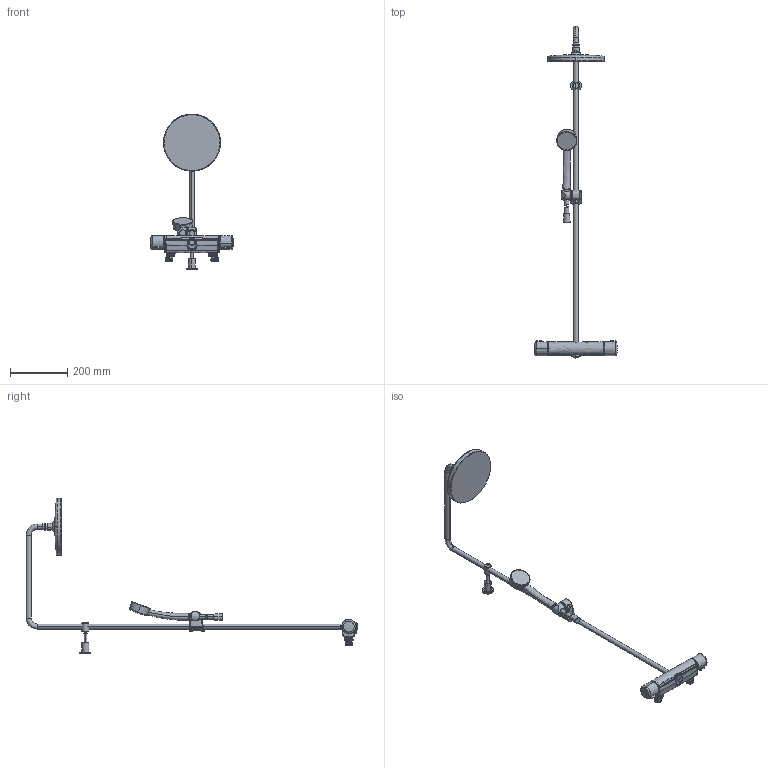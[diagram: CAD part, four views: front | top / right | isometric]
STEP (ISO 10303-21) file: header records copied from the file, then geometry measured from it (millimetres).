
FILE_DESCRIPTION (( 'STEP AP203' ), '1' );
FILE_NAME ('7408G(2022).STEP', '2022-03-03T13:39:02', ( '' ), ( '' ), 'SwSTEP 2.0', 'SolidWorks 2016', '' );
FILE_SCHEMA (( 'CONFIG_CONTROL_DESIGN' ));
Length unit declared in the file: millimetre
Products named in the file (1): 7408G(2022)
Bounding box: 289.61 x 1162.4 x 545.7 mm (x, y, z)
Volume: 1743016.2 mm3; surface area: 348876 mm2
Topology: 24 solids, 24 shells, 848 faces, 1972 edges, 1170 vertices
Faces by surface type: bspline 319, cylinder 208, plane 121, cone 85, torus 83, sphere 32
Entity records: 60246 total; most frequent: CARTESIAN_POINT 43636, ORIENTED_EDGE 3912, DIRECTION 2827, EDGE_CURVE 1956, AXIS2_PLACEMENT_3D 1231, VERTEX_POINT 1170, EDGE_LOOP 868, FACE_OUTER_BOUND 848
